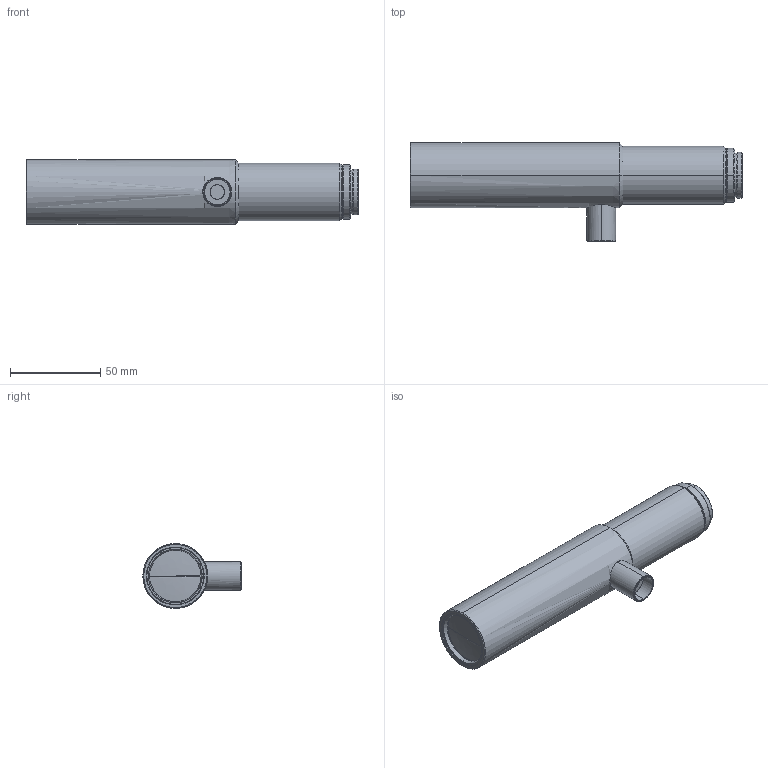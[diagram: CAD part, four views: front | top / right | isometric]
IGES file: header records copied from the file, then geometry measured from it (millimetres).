
Start section: SolidWorks IGES file using analytic representation for surfaces
Global section: file name: C:\Documents and Settings\Tsuji_vst\デスクトップ\VS-TC1-300CO.IGS; native system: SolidWorks 2012; preprocessor: SolidWorks 2012; author: Tsuji_vst; date: 130410.114913; units: millimetre
Bounding box: 184 x 54.5 x 36 mm (x, y, z)
Surface area: 26185.6 mm2 (no closed solid volume)
Topology: 0 solids, 0 shells, 79 faces, 1434 edges, 1433 vertices
Faces by surface type: revolution 66, bspline 13
